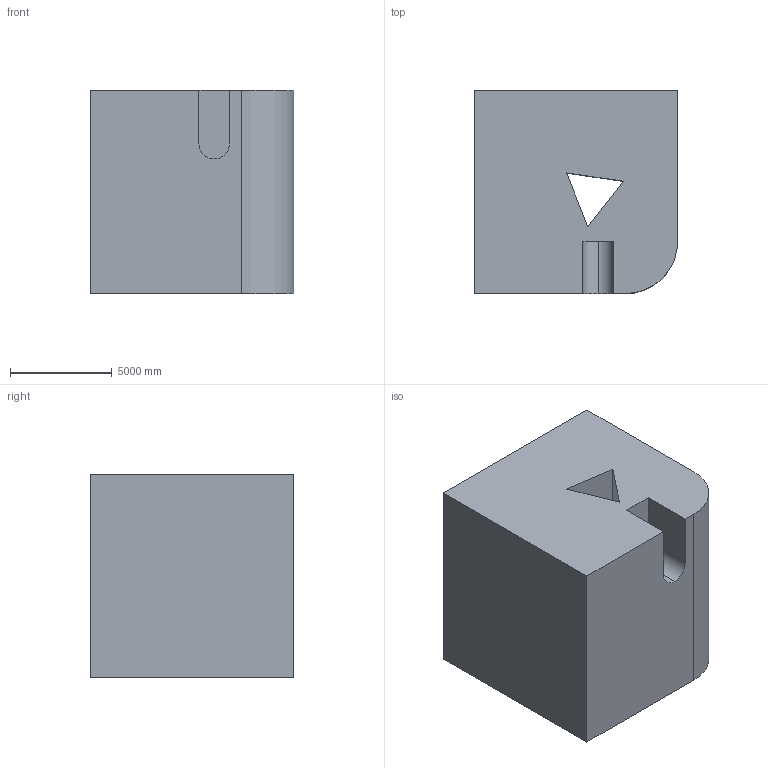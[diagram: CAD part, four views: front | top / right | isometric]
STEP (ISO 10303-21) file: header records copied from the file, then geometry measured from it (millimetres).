
FILE_DESCRIPTION (( 'STEP AP203' ), '1' );
FILE_NAME ('1233.STEP', '2022-08-25T14:47:09', ( 'user' ), ( '' ), 'SwSTEP 2.0', 'SolidWorks 2021', '' );
FILE_SCHEMA (( 'CONFIG_CONTROL_DESIGN' ));
Length unit declared in the file: centimetre
Products named in the file (1): 1233
Bounding box: 10000 x 10000 x 10000 mm (x, y, z)
Volume: 938938109573.7 mm3; surface area: 679736032.8 mm2
Topology: 1 solids, 1 shells, 15 faces, 39 edges, 26 vertices
Faces by surface type: plane 12, cylinder 3
Entity records: 540 total; most frequent: CARTESIAN_POINT 81, ORIENTED_EDGE 78, DIRECTION 77, EDGE_CURVE 39, VECTOR 33, LINE 33, VERTEX_POINT 26, AXIS2_PLACEMENT_3D 22
